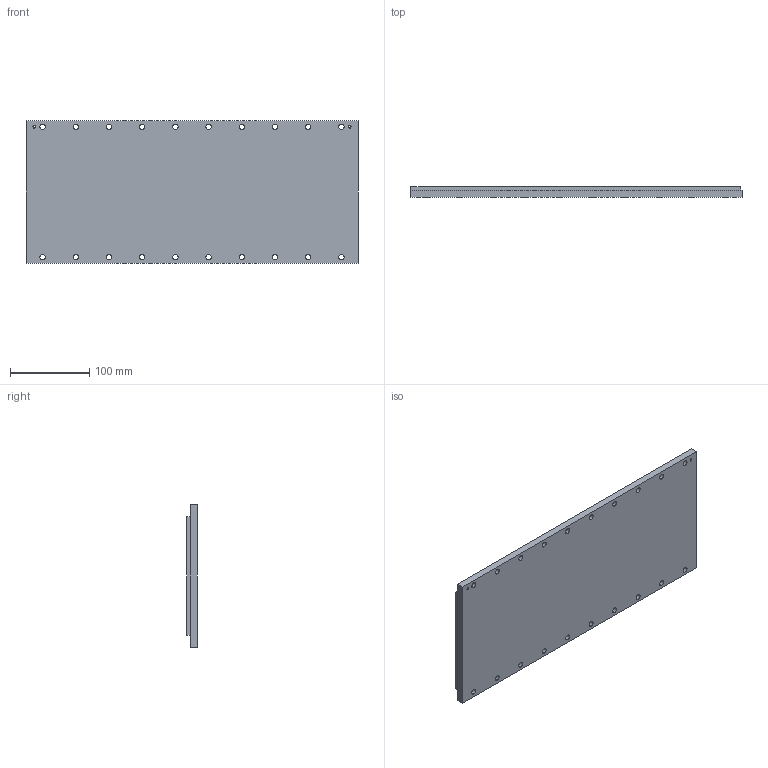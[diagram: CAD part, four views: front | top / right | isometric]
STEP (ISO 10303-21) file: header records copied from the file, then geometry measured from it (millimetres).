
FILE_DESCRIPTION (( 'STEP AP214' ), '1' );
FILE_NAME ('PIXM350-180-TL420-NC.step', '2021-11-01T10:03:09', ( '' ), ( '' ), 'SwSTEP 2.0', 'SolidWorks 2020', '' );
FILE_SCHEMA (( 'AUTOMOTIVE_DESIGN' ));
Length unit declared in the file: millimetre
Products named in the file (1): PIXM350-180-TL420-NC
Bounding box: 420 x 13.5 x 180 mm (x, y, z)
Volume: 951400.3 mm3; surface area: 295532.5 mm2
Topology: 2 solids, 2 shells, 127 faces, 306 edges, 204 vertices
Faces by surface type: cylinder 84, plane 43
Entity records: 5316 total; most frequent: DIRECTION 730, CARTESIAN_POINT 638, ORIENTED_EDGE 612, EDGE_CURVE 306, AXIS2_PLACEMENT_3D 296, VERTEX_POINT 204, EDGE_LOOP 192, CIRCLE 168
